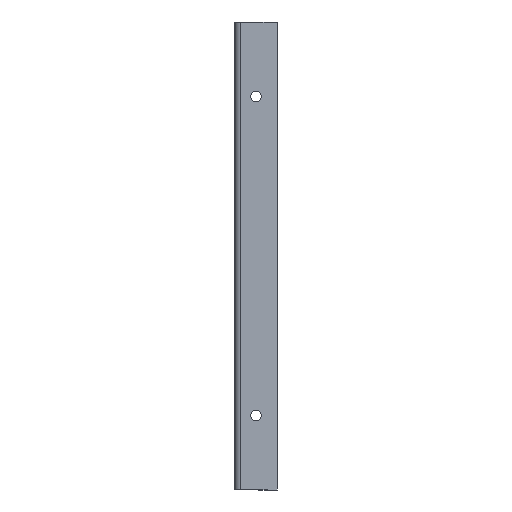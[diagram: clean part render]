
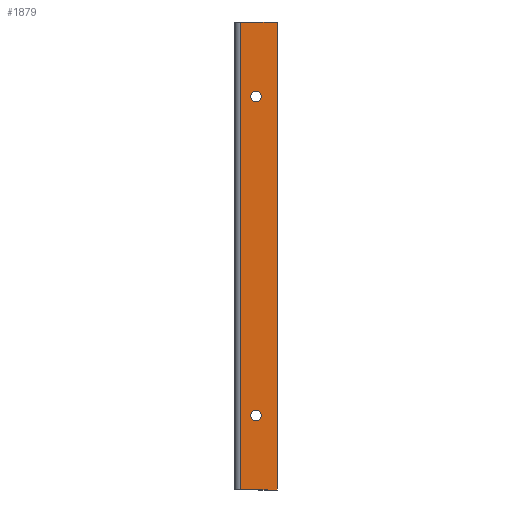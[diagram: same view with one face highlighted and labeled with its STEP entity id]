
A CAD part, front view. The second image highlights one B-rep face of the part: STEP entity #1879.
In plain terms, the highlighted planar face has unit normal (0, -1, 0).
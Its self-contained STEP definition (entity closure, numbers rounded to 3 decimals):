
#145 = DIRECTION ( 'NONE',  ( -1., 0., 0. ) ) ;
#157 = ORIENTED_EDGE ( 'NONE', *, *, #1747, .F. ) ;
#161 = ORIENTED_EDGE ( 'NONE', *, *, #1996, .F. ) ;
#197 = FACE_BOUND ( 'NONE', #2348, .T. ) ;
#199 = DIRECTION ( 'NONE',  ( 0., -1., 0. ) ) ;
#210 = CARTESIAN_POINT ( 'NONE',  ( 110., -2., -85. ) ) ;
#321 = VERTEX_POINT ( 'NONE', #2278 ) ;
#389 = VECTOR ( 'NONE', #2428, 1000. ) ;
#408 = DIRECTION ( 'NONE',  ( 0., -1., 0. ) ) ;
#467 = CIRCLE ( 'NONE', #3033, 2.5 ) ;
#518 = EDGE_CURVE ( 'NONE', #1532, #2551, #2248, .T. ) ;
#529 = LINE ( 'NONE', #2008, #1098 ) ;
#577 = CARTESIAN_POINT ( 'NONE',  ( 110., -2., -87.5 ) ) ;
#624 = CARTESIAN_POINT ( 'NONE',  ( 110., -2., -85. ) ) ;
#637 = ORIENTED_EDGE ( 'NONE', *, *, #518, .F. ) ;
#643 = DIRECTION ( 'NONE',  ( 0., 0., -1. ) ) ;
#661 = CARTESIAN_POINT ( 'NONE',  ( 110., -2., -82.5 ) ) ;
#714 = CARTESIAN_POINT ( 'NONE',  ( 102.736, -2., -120. ) ) ;
#717 = DIRECTION ( 'NONE',  ( 0., 0., -1. ) ) ;
#821 = EDGE_LOOP ( 'NONE', ( #2587, #161 ) ) ;
#837 = AXIS2_PLACEMENT_3D ( 'NONE', #2541, #1103, #145 ) ;
#842 = LINE ( 'NONE', #2855, #2489 ) ;
#870 = PLANE ( 'NONE',  #837 ) ;
#876 = VERTEX_POINT ( 'NONE', #714 ) ;
#912 = CIRCLE ( 'NONE', #1852, 2.5 ) ;
#1014 = EDGE_CURVE ( 'NONE', #2551, #321, #2175, .T. ) ;
#1098 = VECTOR ( 'NONE', #2416, 1000. ) ;
#1103 = DIRECTION ( 'NONE',  ( 0., -1., 0. ) ) ;
#1170 = ORIENTED_EDGE ( 'NONE', *, *, #2162, .F. ) ;
#1243 = CARTESIAN_POINT ( 'NONE',  ( 120., -2., 100. ) ) ;
#1276 = CARTESIAN_POINT ( 'NONE',  ( 110., -2., 62.5 ) ) ;
#1342 = EDGE_CURVE ( 'NONE', #1385, #2096, #467, .T. ) ;
#1385 = VERTEX_POINT ( 'NONE', #2814 ) ;
#1532 = VERTEX_POINT ( 'NONE', #2458 ) ;
#1626 = DIRECTION ( 'NONE',  ( 0., 0., -1. ) ) ;
#1653 = CARTESIAN_POINT ( 'NONE',  ( 110., -2., 65. ) ) ;
#1667 = EDGE_LOOP ( 'NONE', ( #637, #2568, #1170, #2161 ) ) ;
#1684 = DIRECTION ( 'NONE',  ( 1., 0., 0. ) ) ;
#1747 = EDGE_CURVE ( 'NONE', #3037, #2885, #2453, .T. ) ;
#1753 = ORIENTED_EDGE ( 'NONE', *, *, #2002, .F. ) ;
#1852 = AXIS2_PLACEMENT_3D ( 'NONE', #2825, #3073, #1626 ) ;
#1879 = ADVANCED_FACE ( 'NONE', ( #197, #2422, #2277 ), #870, .T. ) ;
#1885 = CARTESIAN_POINT ( 'NONE',  ( 120., -2., 100. ) ) ;
#1889 = DIRECTION ( 'NONE',  ( 0., 0., -1. ) ) ;
#1981 = CIRCLE ( 'NONE', #2432, 2.5 ) ;
#1996 = EDGE_CURVE ( 'NONE', #2096, #1385, #912, .T. ) ;
#2002 = EDGE_CURVE ( 'NONE', #2885, #3037, #1981, .T. ) ;
#2008 = CARTESIAN_POINT ( 'NONE',  ( 120., -2., -120. ) ) ;
#2096 = VERTEX_POINT ( 'NONE', #1276 ) ;
#2110 = DIRECTION ( 'NONE',  ( 0., 0., -1. ) ) ;
#2115 = EDGE_CURVE ( 'NONE', #1532, #876, #842, .T. ) ;
#2161 = ORIENTED_EDGE ( 'NONE', *, *, #1014, .F. ) ;
#2162 = EDGE_CURVE ( 'NONE', #321, #876, #529, .T. ) ;
#2175 = LINE ( 'NONE', #2187, #389 ) ;
#2187 = CARTESIAN_POINT ( 'NONE',  ( 120., -2., 100. ) ) ;
#2248 = LINE ( 'NONE', #1243, #2976 ) ;
#2277 = FACE_OUTER_BOUND ( 'NONE', #1667, .T. ) ;
#2278 = CARTESIAN_POINT ( 'NONE',  ( 120., -2., -120. ) ) ;
#2348 = EDGE_LOOP ( 'NONE', ( #157, #1753 ) ) ;
#2416 = DIRECTION ( 'NONE',  ( -1., 0., 0. ) ) ;
#2422 = FACE_BOUND ( 'NONE', #821, .T. ) ;
#2428 = DIRECTION ( 'NONE',  ( 0., 0., -1. ) ) ;
#2432 = AXIS2_PLACEMENT_3D ( 'NONE', #210, #408, #2110 ) ;
#2453 = CIRCLE ( 'NONE', #2881, 2.5 ) ;
#2458 = CARTESIAN_POINT ( 'NONE',  ( 102.736, -2., 100. ) ) ;
#2489 = VECTOR ( 'NONE', #717, 1000. ) ;
#2541 = CARTESIAN_POINT ( 'NONE',  ( 120., -2., 100. ) ) ;
#2551 = VERTEX_POINT ( 'NONE', #1885 ) ;
#2568 = ORIENTED_EDGE ( 'NONE', *, *, #2115, .T. ) ;
#2587 = ORIENTED_EDGE ( 'NONE', *, *, #1342, .F. ) ;
#2757 = DIRECTION ( 'NONE',  ( 0., -1., 0. ) ) ;
#2814 = CARTESIAN_POINT ( 'NONE',  ( 110., -2., 67.5 ) ) ;
#2825 = CARTESIAN_POINT ( 'NONE',  ( 110., -2., 65. ) ) ;
#2855 = CARTESIAN_POINT ( 'NONE',  ( 102.736, -2., 100. ) ) ;
#2881 = AXIS2_PLACEMENT_3D ( 'NONE', #624, #2757, #643 ) ;
#2885 = VERTEX_POINT ( 'NONE', #577 ) ;
#2976 = VECTOR ( 'NONE', #1684, 1000. ) ;
#3033 = AXIS2_PLACEMENT_3D ( 'NONE', #1653, #199, #1889 ) ;
#3037 = VERTEX_POINT ( 'NONE', #661 ) ;
#3073 = DIRECTION ( 'NONE',  ( 0., -1., 0. ) ) ;
